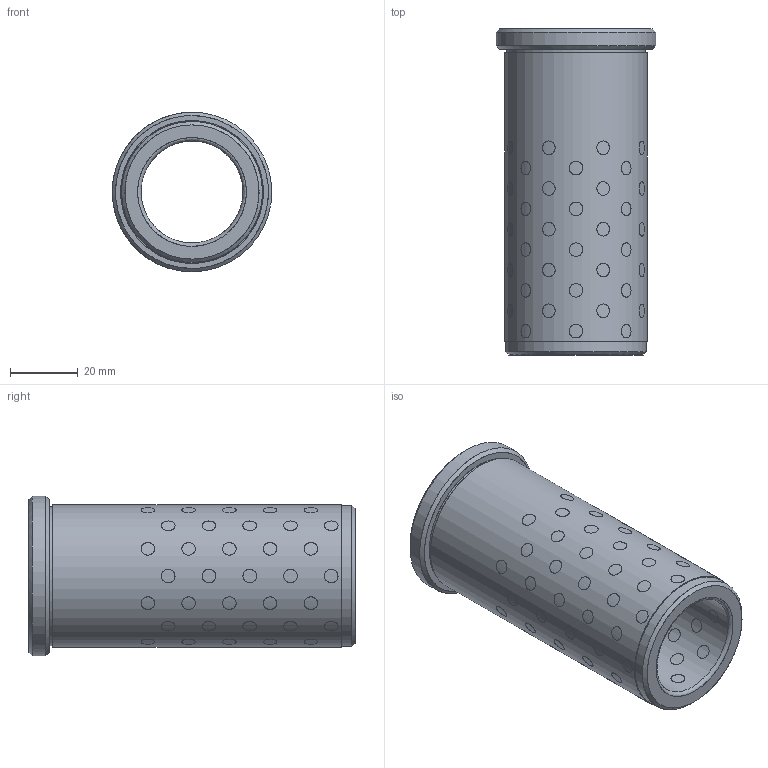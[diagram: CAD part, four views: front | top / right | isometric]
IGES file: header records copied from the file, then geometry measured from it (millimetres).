
Start section: Missler Software BP 521, 31674 Labege Cedex, France Tel   : +33 (0)5 61 00 03 00 Fax   : +33 (0)5 61 00 03 03 Email : sup.topsolid@topsolid.com
Global section: file name: D:\Cuma\D30.05\D30.05_3096.igs; native system: TopSolid v605250 Missler Software; preprocessor: IGES preprocessor v100000; date: 030120.204701; units: millimetre
Bounding box: 46.99 x 96 x 47 mm (x, y, z)
Surface area: 33310.7 mm2 (no closed solid volume)
Topology: 0 solids, 0 shells, 303 faces, 6308 edges, 6108 vertices
Faces by surface type: bspline 303
